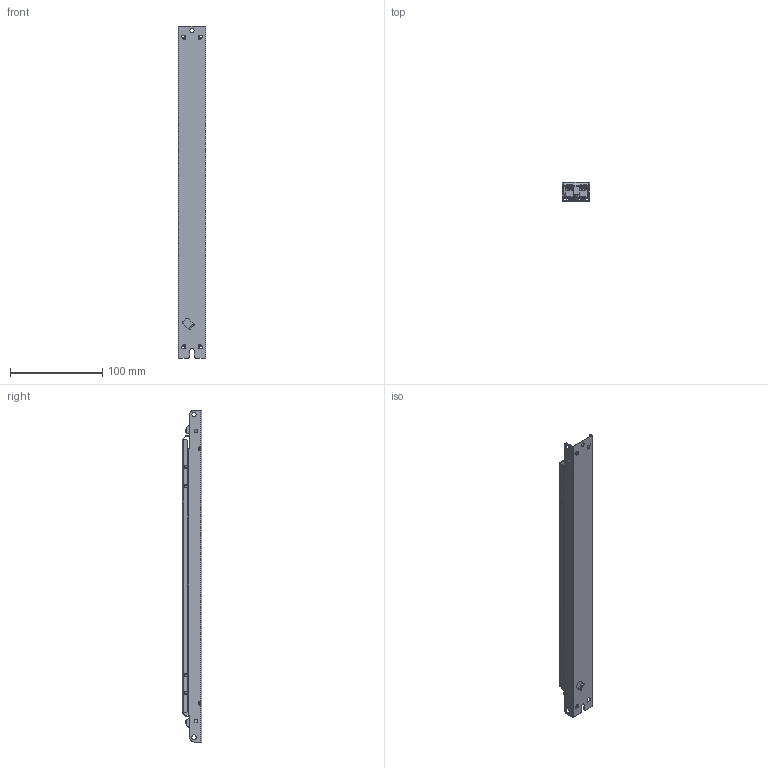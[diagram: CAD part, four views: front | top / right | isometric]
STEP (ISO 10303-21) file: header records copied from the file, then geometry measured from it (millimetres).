
FILE_DESCRIPTION (( 'STEP AP203' ), '1' );
FILE_NAME ('LL1x150-CR-DA.STEP', '2017-10-10T11:55:20', ( '' ), ( '' ), 'SwSTEP 2.0', 'SolidWorks 2014', '' );
FILE_SCHEMA (( 'CONFIG_CONTROL_DESIGN' ));
Length unit declared in the file: millimetre
Products named in the file (7): 130758_pohja; LL1x150-CR-DA-pcb; 2n; 3n; 130759_kansi; LL1x150-CR-DA
Assembly tree (8 placements, depth 3):
  LL1x150-CR-DA
    130758_pohja
    LL1x150-CR-DA-pcb
      LL1x150-CR-DA-pcb
      2n  x3
      3n
    130759_kansi
Bounding box: 30 x 21 x 360 mm (x, y, z)
Volume: 36750 mm3; surface area: 96340.1 mm2
Topology: 7 solids, 7 shells, 1210 faces, 3175 edges, 2005 vertices
Faces by surface type: plane 677, cylinder 383, bspline 132, cone 18
Entity records: 37009 total; most frequent: CARTESIAN_POINT 12781, ORIENTED_EDGE 5210, DIRECTION 4361, EDGE_CURVE 2605, LINE 1695, VECTOR 1695, VERTEX_POINT 1629, AXIS2_PLACEMENT_3D 1333
